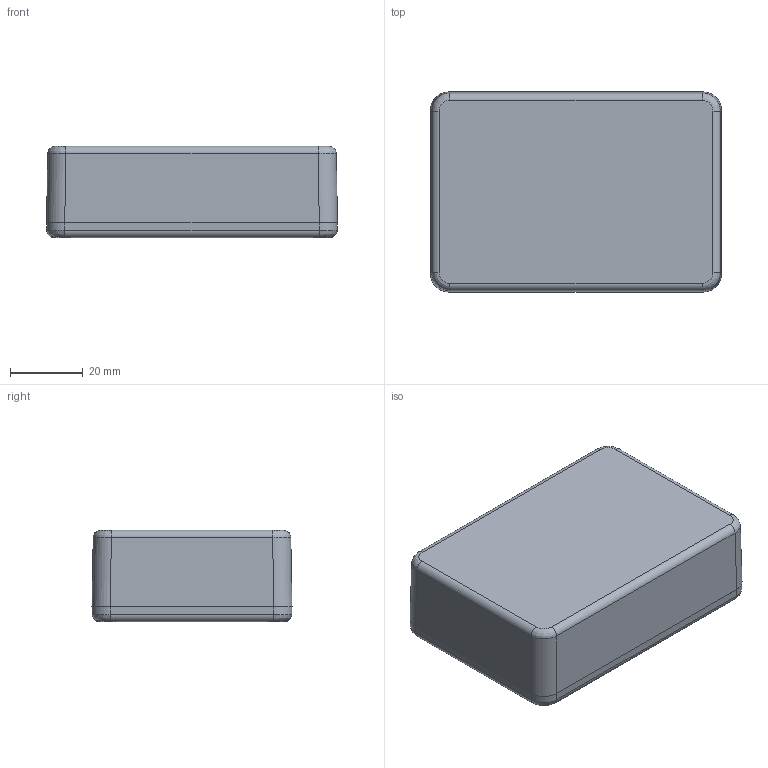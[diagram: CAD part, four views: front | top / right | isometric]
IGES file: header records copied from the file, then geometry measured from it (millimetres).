
Global section: file name: 1550P.iam; native system: Autodesk Inventor 2014; preprocessor: unknown; author: fwarzocha; date: 20141029.101401; units: millimetre
Bounding box: 80 x 55 x 25.1 mm (x, y, z)
Volume: 27043.2 mm3; surface area: 30958.6 mm2
Topology: 6 solids, 6 shells, 861 faces, 2308 edges, 1508 vertices
Faces by surface type: plane 349, bspline 338, revolution 114, cylinder 38, cone 22
Full cylindrical faces by diameter (mm): 3.43 x4
